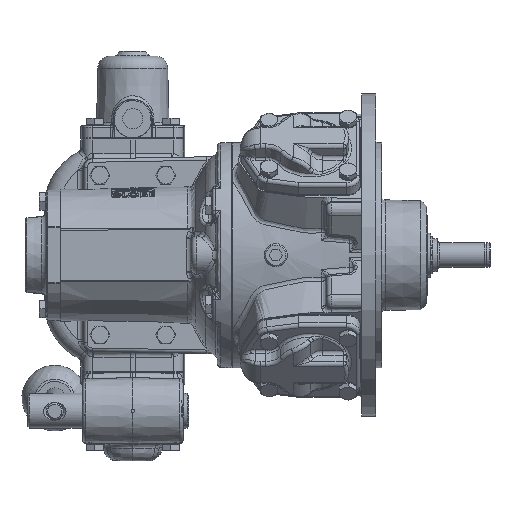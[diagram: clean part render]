
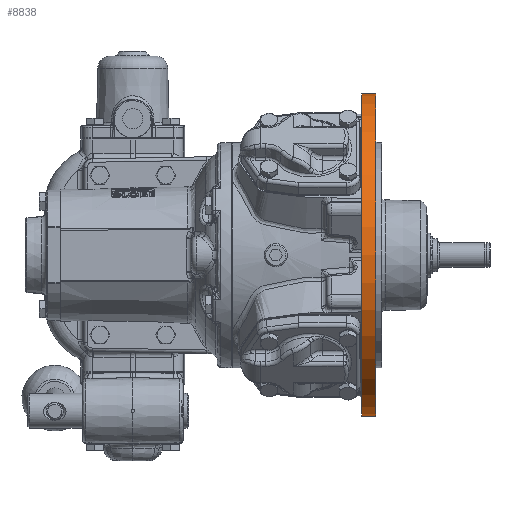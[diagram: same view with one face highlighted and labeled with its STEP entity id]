
A CAD part, front view. The second image highlights one B-rep face of the part: STEP entity #8838.
In plain terms, the highlighted cylindrical face has radius 93 mm (diameter 186 mm), a full revolution.
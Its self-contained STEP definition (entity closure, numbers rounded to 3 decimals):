
#3505 = VERTEX_POINT ( 'NONE', #116950 ) ;
#6080 = EDGE_LOOP ( 'NONE', ( #59665 ) ) ;
#7725 = EDGE_LOOP ( 'NONE', ( #171270 ) ) ;
#8838 = ADVANCED_FACE ( 'NONE', ( #58310, #114926 ), #88899, .T. ) ;
#14477 = CARTESIAN_POINT ( 'NONE',  ( 70.4, 0., 0. ) ) ;
#31195 = DIRECTION ( 'NONE',  ( 1., 0., 0. ) ) ;
#45404 = CARTESIAN_POINT ( 'NONE',  ( 29.3, 0., 0. ) ) ;
#51822 = AXIS2_PLACEMENT_3D ( 'NONE', #14477, #31195, #87984 ) ;
#58310 = FACE_OUTER_BOUND ( 'NONE', #6080, .T. ) ;
#59665 = ORIENTED_EDGE ( 'NONE', *, *, #123553, .T. ) ;
#78420 = CIRCLE ( 'NONE', #110942, 93. ) ;
#84277 = DIRECTION ( 'NONE',  ( 0., -1., 0. ) ) ;
#87049 = CIRCLE ( 'NONE', #128496, 93. ) ;
#87984 = DIRECTION ( 'NONE',  ( 0., -1., 0. ) ) ;
#88899 = CYLINDRICAL_SURFACE ( 'NONE', #51822, 93. ) ;
#110942 = AXIS2_PLACEMENT_3D ( 'NONE', #45404, #144829, #115060 ) ;
#114926 = FACE_OUTER_BOUND ( 'NONE', #7725, .T. ) ;
#115060 = DIRECTION ( 'NONE',  ( 0., -1., 0. ) ) ;
#116950 = CARTESIAN_POINT ( 'NONE',  ( 29.3, -93., 0. ) ) ;
#123553 = EDGE_CURVE ( 'NONE', #3505, #3505, #78420, .T. ) ;
#128496 = AXIS2_PLACEMENT_3D ( 'NONE', #170844, #169916, #84277 ) ;
#139963 = EDGE_CURVE ( 'NONE', #147657, #147657, #87049, .T. ) ;
#144829 = DIRECTION ( 'NONE',  ( 1., 0., 0. ) ) ;
#147657 = VERTEX_POINT ( 'NONE', #162634 ) ;
#162634 = CARTESIAN_POINT ( 'NONE',  ( 37.55, -93., 0. ) ) ;
#169916 = DIRECTION ( 'NONE',  ( 1., 0., 0. ) ) ;
#170844 = CARTESIAN_POINT ( 'NONE',  ( 37.55, 0., 0. ) ) ;
#171270 = ORIENTED_EDGE ( 'NONE', *, *, #139963, .F. ) ;
